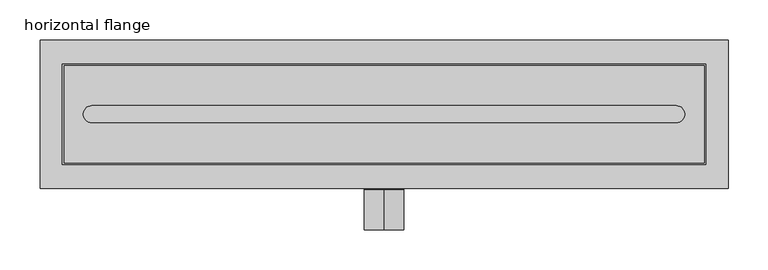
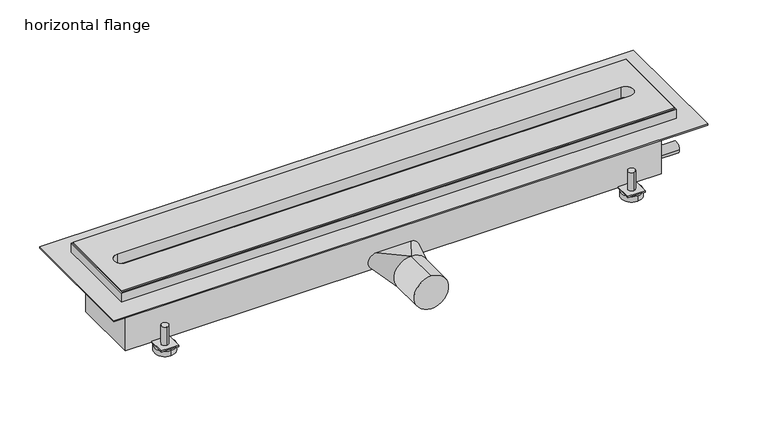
"""IFC4 building model written with IfcOpenShell, lengths in millimetres: sanitary terminal geometry, PF_ST_showerdrain X_Aco : horizontal flange."""

from ifc_helpers import new_model, si_unit, point, frame, frame_2d, origin, origin_with_axes, place, context, project, spatial, polyline, circle_curve, trimmed, segment, composite_curve, outline, extrude, faceted_brep, source, transform, mapped, element, save
from ifc_brep_helpers import plane_surface, cylinder_surface, spline_surface, advanced_brep


def horizontal_flange_dd45173d(model_context):
    return source(origin(), model_context, "Body", "SolidModel", [
        advanced_brep(
        [(-338.0, 67.0, -56.0), (-338.0, 57.0, -56.0), (-338.0, 77.0, -94.0), (-338.0, 47.0, -94.0), (-338.0, 67.0, -86.0), (-338.0, 57.0, -86.0), (-338.0, 77.0, -86.0), (-338.0, 47.0, -86.0)],
        [
            (0, 1, circle_curve(frame((-338.0, 62.0, -56.0), z_axis=(0.0, 0.0, 1.0), x_axis=(0.0, -1.0, 0.0)), 5.0)),
            (1, 0, circle_curve(frame((-338.0, 62.0, -56.0), z_axis=(0.0, 0.0, 1.0), x_axis=(0.0, -1.0, 0.0)), 5.0)),
            (2, 3, circle_curve(frame((-338.0, 62.0, -94.0), z_axis=(0.0, 0.0, -1.0), x_axis=(0.0, -1.0, 0.0)), 15.0)),
            (3, 2, circle_curve(frame((-338.0, 62.0, -94.0), z_axis=(0.0, 0.0, -1.0), x_axis=(0.0, -1.0, 0.0)), 15.0)),
            (0, 4),
            (4, 5, circle_curve(frame((-338.0, 62.0, -86.0), z_axis=(0.0, 0.0, 1.0), x_axis=(0.0, -1.0, 0.0)), 5.0)),
            (5, 1),
            (5, 4, circle_curve(frame((-338.0, 62.0, -86.0), z_axis=(0.0, 0.0, 1.0), x_axis=(0.0, -1.0, 0.0)), 5.0)),
            (6, 7, circle_curve(frame((-338.0, 62.0, -86.0), z_axis=(0.0, 0.0, 1.0), x_axis=(0.0, -1.0, 0.0)), 15.0)),
            (7, 6, circle_curve(frame((-338.0, 62.0, -86.0), z_axis=(0.0, 0.0, 1.0), x_axis=(0.0, -1.0, 0.0)), 15.0)),
            (6, 2),
            (3, 7),
        ],
        [
            plane_surface(frame((-338.0, 57.0, -56.0), z_axis=(0.0, 0.0, 1.0), x_axis=(1.0, 0.0, 0.0))),
            plane_surface(frame((-338.0, 57.0, -94.0), z_axis=(0.0, 0.0, -1.0), x_axis=(-1.0, 0.0, 0.0))),
            cylinder_surface(frame((-338.0, 62.0, -94.0), z_axis=(0.0, 0.0, 1.0), x_axis=(0.0, -1.0, 0.0)), 5.0),
            plane_surface(frame((-338.0, 47.0, -86.0), z_axis=(0.0, 0.0, 1.0), x_axis=(1.0, 0.0, 0.0))),
            cylinder_surface(frame((-338.0, 62.0, -94.0), z_axis=(0.0, 0.0, 1.0), x_axis=(0.0, -1.0, 0.0)), 15.0),
        ],
        [
            (0, [[1, 2]]),
            (1, [[3, 4]]),
            (2, [[-1, 5, 6, 7]]),
            (2, [[-2, -7, 8, -5]]),
            (3, [[9, 10], [-6, -8]]),
            (4, [[-9, 11, -4, 12]]),
            (4, [[-10, -12, -3, -11]]),
        ],
    ),
        advanced_brep(
        [(-338.0, -56.5, -56.0), (-338.0, -66.5, -56.0), (-338.0, -46.5, -94.0), (-338.0, -76.5, -94.0), (-338.0, -56.5, -86.0), (-338.0, -66.5, -86.0), (-338.0, -46.5, -86.0), (-338.0, -76.5, -86.0)],
        [
            (0, 1, circle_curve(frame((-338.0, -61.5, -56.0), z_axis=(0.0, 0.0, 1.0), x_axis=(0.0, -1.0, 0.0)), 5.0)),
            (1, 0, circle_curve(frame((-338.0, -61.5, -56.0), z_axis=(0.0, 0.0, 1.0), x_axis=(0.0, -1.0, 0.0)), 5.0)),
            (2, 3, circle_curve(frame((-338.0, -61.5, -94.0), z_axis=(0.0, 0.0, -1.0), x_axis=(0.0, -1.0, 0.0)), 15.0)),
            (3, 2, circle_curve(frame((-338.0, -61.5, -94.0), z_axis=(0.0, 0.0, -1.0), x_axis=(0.0, -1.0, 0.0)), 15.0)),
            (0, 4),
            (4, 5, circle_curve(frame((-338.0, -61.5, -86.0), z_axis=(0.0, 0.0, 1.0), x_axis=(0.0, -1.0, 0.0)), 5.0)),
            (5, 1),
            (5, 4, circle_curve(frame((-338.0, -61.5, -86.0), z_axis=(0.0, 0.0, 1.0), x_axis=(0.0, -1.0, 0.0)), 5.0)),
            (6, 7, circle_curve(frame((-338.0, -61.5, -86.0), z_axis=(0.0, 0.0, 1.0), x_axis=(0.0, -1.0, 0.0)), 15.0)),
            (7, 6, circle_curve(frame((-338.0, -61.5, -86.0), z_axis=(0.0, 0.0, 1.0), x_axis=(0.0, -1.0, 0.0)), 15.0)),
            (6, 2),
            (3, 7),
        ],
        [
            plane_surface(frame((-338.0, 57.0, -56.0), z_axis=(0.0, 0.0, 1.0), x_axis=(1.0, 0.0, 0.0))),
            plane_surface(frame((-338.0, 57.0, -94.0), z_axis=(0.0, 0.0, -1.0), x_axis=(-1.0, 0.0, 0.0))),
            cylinder_surface(frame((-338.0, -61.5, -94.0), z_axis=(0.0, 0.0, 1.0), x_axis=(0.0, -1.0, 0.0)), 5.0),
            plane_surface(frame((-338.0, 47.0, -86.0), z_axis=(0.0, 0.0, 1.0), x_axis=(1.0, 0.0, 0.0))),
            cylinder_surface(frame((-338.0, -61.5, -94.0), z_axis=(0.0, 0.0, 1.0), x_axis=(0.0, -1.0, 0.0)), 15.0),
        ],
        [
            (0, [[1, 2]]),
            (1, [[3, 4]]),
            (2, [[-1, 5, 6, 7]]),
            (2, [[-2, -7, 8, -5]]),
            (3, [[9, 10], [-6, -8]]),
            (4, [[-9, 11, -4, 12]]),
            (4, [[-10, -12, -3, -11]]),
        ],
    ),
        advanced_brep(
        [(338.0, 67.0, -56.0), (338.0, 57.0, -56.0), (338.0, 77.0, -94.0), (338.0, 47.0, -94.0), (338.0, 67.0, -86.0), (338.0, 57.0, -86.0), (338.0, 77.0, -86.0), (338.0, 47.0, -86.0)],
        [
            (0, 1, circle_curve(frame((338.0, 62.0, -56.0), z_axis=(0.0, 0.0, 1.0), x_axis=(0.0, -1.0, 0.0)), 5.0)),
            (1, 0, circle_curve(frame((338.0, 62.0, -56.0), z_axis=(0.0, 0.0, 1.0), x_axis=(0.0, -1.0, 0.0)), 5.0)),
            (2, 3, circle_curve(frame((338.0, 62.0, -94.0), z_axis=(0.0, 0.0, -1.0), x_axis=(0.0, -1.0, 0.0)), 15.0)),
            (3, 2, circle_curve(frame((338.0, 62.0, -94.0), z_axis=(0.0, 0.0, -1.0), x_axis=(0.0, -1.0, 0.0)), 15.0)),
            (0, 4),
            (4, 5, circle_curve(frame((338.0, 62.0, -86.0), z_axis=(0.0, 0.0, 1.0), x_axis=(0.0, -1.0, 0.0)), 5.0)),
            (5, 1),
            (5, 4, circle_curve(frame((338.0, 62.0, -86.0), z_axis=(0.0, 0.0, 1.0), x_axis=(0.0, -1.0, 0.0)), 5.0)),
            (6, 7, circle_curve(frame((338.0, 62.0, -86.0), z_axis=(0.0, 0.0, 1.0), x_axis=(0.0, -1.0, 0.0)), 15.0)),
            (7, 6, circle_curve(frame((338.0, 62.0, -86.0), z_axis=(0.0, 0.0, 1.0), x_axis=(0.0, -1.0, 0.0)), 15.0)),
            (6, 2),
            (3, 7),
        ],
        [
            plane_surface(frame((-338.0, 57.0, -56.0), z_axis=(0.0, 0.0, 1.0), x_axis=(1.0, 0.0, 0.0))),
            plane_surface(frame((-338.0, 57.0, -94.0), z_axis=(0.0, 0.0, -1.0), x_axis=(-1.0, 0.0, 0.0))),
            cylinder_surface(frame((338.0, 62.0, -94.0), z_axis=(0.0, 0.0, 1.0), x_axis=(0.0, -1.0, 0.0)), 5.0),
            plane_surface(frame((-338.0, 47.0, -86.0), z_axis=(0.0, 0.0, 1.0), x_axis=(1.0, 0.0, 0.0))),
            cylinder_surface(frame((338.0, 62.0, -94.0), z_axis=(0.0, 0.0, 1.0), x_axis=(0.0, -1.0, 0.0)), 15.0),
        ],
        [
            (0, [[1, 2]]),
            (1, [[3, 4]]),
            (2, [[-1, 5, 6, 7]]),
            (2, [[-2, -7, 8, -5]]),
            (3, [[9, 10], [-6, -8]]),
            (4, [[-9, 11, -4, 12]]),
            (4, [[-10, -12, -3, -11]]),
        ],
    ),
        advanced_brep(
        [(338.0, -56.5, -56.0), (338.0, -66.5, -56.0), (338.0, -46.5, -94.0), (338.0, -76.5, -94.0), (338.0, -56.5, -86.0), (338.0, -66.5, -86.0), (338.0, -46.5, -86.0), (338.0, -76.5, -86.0)],
        [
            (0, 1, circle_curve(frame((338.0, -61.5, -56.0), z_axis=(0.0, 0.0, 1.0), x_axis=(0.0, -1.0, 0.0)), 5.0)),
            (1, 0, circle_curve(frame((338.0, -61.5, -56.0), z_axis=(0.0, 0.0, 1.0), x_axis=(0.0, -1.0, 0.0)), 5.0)),
            (2, 3, circle_curve(frame((338.0, -61.5, -94.0), z_axis=(0.0, 0.0, -1.0), x_axis=(0.0, -1.0, 0.0)), 15.0)),
            (3, 2, circle_curve(frame((338.0, -61.5, -94.0), z_axis=(0.0, 0.0, -1.0), x_axis=(0.0, -1.0, 0.0)), 15.0)),
            (0, 4),
            (4, 5, circle_curve(frame((338.0, -61.5, -86.0), z_axis=(0.0, 0.0, 1.0), x_axis=(0.0, -1.0, 0.0)), 5.0)),
            (5, 1),
            (5, 4, circle_curve(frame((338.0, -61.5, -86.0), z_axis=(0.0, 0.0, 1.0), x_axis=(0.0, -1.0, 0.0)), 5.0)),
            (6, 7, circle_curve(frame((338.0, -61.5, -86.0), z_axis=(0.0, 0.0, 1.0), x_axis=(0.0, -1.0, 0.0)), 15.0)),
            (7, 6, circle_curve(frame((338.0, -61.5, -86.0), z_axis=(0.0, 0.0, 1.0), x_axis=(0.0, -1.0, 0.0)), 15.0)),
            (6, 2),
            (3, 7),
        ],
        [
            plane_surface(frame((-338.0, 57.0, -56.0), z_axis=(0.0, 0.0, 1.0), x_axis=(1.0, 0.0, 0.0))),
            plane_surface(frame((-338.0, 57.0, -94.0), z_axis=(0.0, 0.0, -1.0), x_axis=(-1.0, 0.0, 0.0))),
            cylinder_surface(frame((338.0, -61.5, -94.0), z_axis=(0.0, 0.0, 1.0), x_axis=(0.0, -1.0, 0.0)), 5.0),
            plane_surface(frame((-338.0, 47.0, -86.0), z_axis=(0.0, 0.0, 1.0), x_axis=(1.0, 0.0, 0.0))),
            cylinder_surface(frame((338.0, -61.5, -94.0), z_axis=(0.0, 0.0, 1.0), x_axis=(0.0, -1.0, 0.0)), 15.0),
        ],
        [
            (0, [[1, 2]]),
            (1, [[3, 4]]),
            (2, [[-1, 5, 6, 7]]),
            (2, [[-2, -7, 8, -5]]),
            (3, [[9, 10], [-6, -8]]),
            (4, [[-9, 11, -4, 12]]),
            (4, [[-10, -12, -3, -11]]),
        ],
    ),
        advanced_brep(
        [(388.0, 50.0, -86.0), (388.0, -49.0, -86.0), (350.5, -49.0, -86.0), (350.5, -74.0, -86.0), (325.5, -74.0, -86.0), (325.5, -49.0, -86.0), (-325.5, -49.0, -86.0), (-325.5, -74.0, -86.0), (-350.5, -74.0, -86.0), (-350.5, -49.0, -86.0), (-388.0, -49.0, -86.0), (-388.0, 50.0, -86.0), (-350.5, 50.0, -86.0), (-350.5, 74.0, -86.0), (-325.5, 74.0, -86.0), (-325.5, 50.0, -86.0), (325.5, 50.0, -86.0), (325.5, 74.0, -86.0), (350.5, 74.0, -86.0), (350.5, 50.0, -86.0), (388.0, 50.0, -8.0), (-388.0, 50.0, -8.0), (-388.0, -49.0, -8.0), (388.0, -49.0, -8.0), (350.5, 50.0, -84.0), (325.5, 50.0, -84.0), (-325.5, 50.0, -84.0), (-350.5, 50.0, -84.0), (-350.5, -49.0, -84.0), (-325.5, -49.0, -84.0), (325.5, -49.0, -84.0), (350.5, -49.0, -84.0), (388.0, -37.85, -68.0), (388.0, -22.15, -68.0), (388.0, 24.15, -32.0), (388.0, 39.85, -32.0), (421.0, -37.85, -68.0), (421.0, -22.15, -68.0), (421.0, 24.15, -32.0), (421.0, 39.85, -32.0), (-325.5, 74.0, -84.0), (-350.5, 74.0, -84.0), (350.5, 74.0, -84.0), (325.5, 74.0, -84.0), (350.5, -74.0, -84.0), (325.5, -74.0, -84.0), (-350.5, -74.0, -84.0), (-325.5, -74.0, -84.0)],
        [
            (0, 1),
            (1, 2),
            (2, 3),
            (3, 4),
            (4, 5),
            (5, 6),
            (6, 7),
            (7, 8),
            (8, 9),
            (9, 10),
            (10, 11),
            (11, 12),
            (12, 13),
            (13, 14),
            (14, 15),
            (15, 16),
            (16, 17),
            (17, 18),
            (18, 19),
            (19, 0),
            (20, 21),
            (21, 22),
            (22, 23),
            (23, 20),
            (20, 0),
            (19, 24),
            (24, 25),
            (25, 16),
            (15, 26),
            (26, 27),
            (27, 12),
            (11, 21),
            (10, 22),
            (9, 28),
            (28, 29),
            (29, 6),
            (5, 30),
            (30, 31),
            (31, 2),
            (1, 23),
            (32, 33, circle_curve(frame((388.0, -30.0, -68.0), z_axis=(-1.0, 0.0, 0.0), x_axis=(0.0, 1.0, 0.0)), 7.85)),
            (33, 32, circle_curve(frame((388.0, -30.0, -68.0), z_axis=(-1.0, 0.0, 0.0), x_axis=(0.0, 1.0, 0.0)), 7.85)),
            (34, 35, circle_curve(frame((388.0, 32.0, -32.0), z_axis=(-1.0, 0.0, 0.0), x_axis=(0.0, 1.0, 0.0)), 7.85)),
            (35, 34, circle_curve(frame((388.0, 32.0, -32.0), z_axis=(-1.0, 0.0, 0.0), x_axis=(0.0, 1.0, 0.0)), 7.85)),
            (36, 37, circle_curve(frame((421.0, -30.0, -68.0), z_axis=(1.0, 0.0, 0.0), x_axis=(0.0, 1.0, 0.0)), 7.85)),
            (37, 36, circle_curve(frame((421.0, -30.0, -68.0), z_axis=(1.0, 0.0, 0.0), x_axis=(0.0, 1.0, 0.0)), 7.85)),
            (37, 33),
            (32, 36),
            (38, 39, circle_curve(frame((421.0, 32.0, -32.0), z_axis=(1.0, 0.0, 0.0), x_axis=(0.0, 1.0, 0.0)), 7.85)),
            (39, 38, circle_curve(frame((421.0, 32.0, -32.0), z_axis=(1.0, 0.0, 0.0), x_axis=(0.0, 1.0, 0.0)), 7.85)),
            (39, 35),
            (34, 38),
            (40, 41),
            (41, 27),
            (26, 40),
            (42, 43),
            (43, 25),
            (24, 42),
            (44, 31),
            (30, 45),
            (45, 44),
            (46, 47),
            (47, 29),
            (28, 46),
            (40, 14),
            (13, 41),
            (42, 18),
            (17, 43),
            (44, 3),
            (4, 45),
            (46, 8),
            (7, 47),
        ],
        [
            plane_surface(frame((-388.0, 50.0, -86.0), z_axis=(0.0, 0.0, -1.0), x_axis=(1.0, 0.0, 0.0))),
            plane_surface(frame((-388.0, 50.0, -8.0), z_axis=(0.0, 0.0, 1.0), x_axis=(-1.0, 0.0, 0.0))),
            plane_surface(frame((388.0, 50.0, -8.0), z_axis=(0.0, 1.0, 0.0), x_axis=(0.0, 0.0, -1.0))),
            plane_surface(frame((-388.0, 50.0, -8.0), z_axis=(-1.0, 0.0, 0.0), x_axis=(0.0, 0.0, -1.0))),
            plane_surface(frame((-388.0, -49.0, -8.0), z_axis=(0.0, -1.0, 0.0), x_axis=(0.0, 0.0, -1.0))),
            plane_surface(frame((388.0, -49.0, -8.0), z_axis=(1.0, 0.0, 0.0), x_axis=(0.0, 0.0, -1.0))),
            plane_surface(frame((421.0, -30.0, -68.0), z_axis=(1.0, 0.0, 0.0), x_axis=(0.0, 0.0, 1.0))),
            cylinder_surface(frame((0.0, -30.0, -68.0), z_axis=(-1.0, 0.0, 0.0), x_axis=(0.0, 1.0, 0.0)), 7.85),
            plane_surface(frame((421.0, 32.0, -32.0), z_axis=(1.0, 0.0, 0.0), x_axis=(0.0, 0.0, 1.0))),
            cylinder_surface(frame((0.0, 32.0, -32.0), z_axis=(-1.0, 0.0, 0.0), x_axis=(0.0, 1.0, 0.0)), 7.85),
            plane_surface(frame((-350.5, 74.0, -84.0), z_axis=(0.0, 0.0, 1.0), x_axis=(-1.0, 0.0, 0.0))),
            plane_surface(frame((-325.5, 74.0, -84.0), z_axis=(0.0, 1.0, 0.0), x_axis=(0.0, 0.0, -1.0))),
            plane_surface(frame((-350.5, 74.0, -84.0), z_axis=(-1.0, 0.0, 0.0), x_axis=(0.0, 0.0, -1.0))),
            plane_surface(frame((-325.5, 50.0, -84.0), z_axis=(1.0, 0.0, 0.0), x_axis=(0.0, 0.0, -1.0))),
            plane_surface(frame((350.5, 74.0, -84.0), z_axis=(0.0, 1.0, 0.0), x_axis=(0.0, 0.0, -1.0))),
            plane_surface(frame((325.5, 74.0, -84.0), z_axis=(-1.0, 0.0, 0.0), x_axis=(0.0, 0.0, -1.0))),
            plane_surface(frame((350.5, 50.0, -84.0), z_axis=(1.0, 0.0, 0.0), x_axis=(0.0, 0.0, -1.0))),
            plane_surface(frame((350.5, -74.0, -84.0), z_axis=(1.0, 0.0, 0.0), x_axis=(0.0, 0.0, -1.0))),
            plane_surface(frame((325.5, -49.0, -84.0), z_axis=(-1.0, 0.0, 0.0), x_axis=(0.0, 0.0, -1.0))),
            plane_surface(frame((325.5, -74.0, -84.0), z_axis=(0.0, -1.0, 0.0), x_axis=(0.0, 0.0, -1.0))),
            plane_surface(frame((-350.5, -74.0, -84.0), z_axis=(0.0, -1.0, 0.0), x_axis=(0.0, 0.0, -1.0))),
            plane_surface(frame((-325.5, -74.0, -84.0), z_axis=(1.0, 0.0, 0.0), x_axis=(0.0, 0.0, -1.0))),
            plane_surface(frame((-350.5, -49.0, -84.0), z_axis=(-1.0, 0.0, 0.0), x_axis=(0.0, 0.0, -1.0))),
        ],
        [
            (0, [[1, 2, 3, 4, 5, 6, 7, 8, 9, 10, 11, 12, 13, 14, 15, 16, 17, 18, 19, 20]]),
            (1, [[21, 22, 23, 24]]),
            (2, [[-21, 25, -20, 26, 27, 28, -16, 29, 30, 31, -12, 32]]),
            (3, [[-11, 33, -22, -32]]),
            (4, [[-23, -33, -10, 34, 35, 36, -6, 37, 38, 39, -2, 40]]),
            (5, [[-1, -25, -24, -40], [41, 42], [43, 44]]),
            (6, [[45, 46]]),
            (7, [[-46, 47, -41, 48]]),
            (7, [[-45, -48, -42, -47]]),
            (8, [[49, 50]]),
            (9, [[-50, 51, -43, 52]]),
            (9, [[-49, -52, -44, -51]]),
            (10, [[53, 54, -30, 55]]),
            (10, [[56, 57, -27, 58]]),
            (10, [[59, -38, 60, 61]]),
            (10, [[62, 63, -35, 64]]),
            (11, [[-53, 65, -14, 66]]),
            (12, [[-54, -66, -13, -31]]),
            (13, [[-55, -29, -15, -65]]),
            (14, [[-56, 67, -18, 68]]),
            (15, [[-57, -68, -17, -28]]),
            (16, [[-58, -26, -19, -67]]),
            (17, [[-59, 69, -3, -39]]),
            (18, [[-60, -37, -5, 70]]),
            (19, [[-61, -70, -4, -69]]),
            (20, [[-62, 71, -8, 72]]),
            (21, [[-63, -72, -7, -36]]),
            (22, [[-64, -34, -9, -71]]),
        ],
    ),
        extrude(outline(polyline([(400.0, 61.0), (400.0, -61.0), (-400.0, -61.0), (-400.0, 61.0), (400.0, 61.0)]), holes=[composite_curve([segment(polyline([(365.0860312, 10.6770786), (-365.0900069, 10.6770786)]), True, "CONTINUOUS"), segment(trimmed(circle_curve(frame_2d((-365.0900069, 0.0)), 10.6770786), [point((-365.0900069, 10.6770786))], [point((-365.0900069, -10.6770786))], True, "CARTESIAN"), True, "CONTINUOUS"), segment(polyline([(-365.0900069, -10.6770786), (365.0860312, -10.6770786)]), True, "CONTINUOUS"), segment(trimmed(circle_curve(frame_2d((365.0860312, 0.0)), 10.6770786), [point((365.0860312, -10.6770786))], [point((365.0860312, 10.6770786))], True, "CARTESIAN"), True, "CONTINUOUS")], self_intersect=False)]), origin_with_axes(), (0.0, 0.0, 1.0), 18.0),
        advanced_brep(
        [(0.0, -144.5, -99.0), (0.0, -144.5, -49.0), (0.0, -94.5, -99.0), (13.0, -94.5, -95.3541565), (13.0005627, -94.5, -52.6461861), (0.0, -94.5, -49.0), (-13.0, -94.5, -52.6458435), (-13.0, -94.5, -95.3541565), (25.0, -50.0, -86.0), (-25.0, -50.0, -86.0), (-25.0, -50.0, -62.0), (25.0, -50.0, -62.0)],
        [
            (0, 1, circle_curve(frame((0.0, -144.5, -74.0), z_axis=(0.0, -1.0, 0.0), x_axis=(0.0, 0.0, 1.0)), 25.0)),
            (1, 0, circle_curve(frame((0.0, -144.5, -74.0), z_axis=(0.0, -1.0, 0.0), x_axis=(0.0, 0.0, 1.0)), 25.0)),
            (0, 2),
            (2, 3, circle_curve(frame((0.0, -94.5, -74.0), z_axis=(0.0, -1.0, 0.0), x_axis=(0.0, 0.0, 1.0)), 25.0)),
            (3, 4, circle_curve(frame((0.0, -94.5, -74.0), z_axis=(0.0, -1.0, 0.0), x_axis=(0.0, 0.0, 1.0)), 25.0)),
            (4, 5, circle_curve(frame((0.0, -94.5, -74.0), z_axis=(0.0, -1.0, 0.0), x_axis=(0.0, 0.0, 1.0)), 25.0)),
            (5, 1),
            (5, 6, circle_curve(frame((0.0, -94.5, -74.0), z_axis=(0.0, -1.0, 0.0), x_axis=(0.0, 0.0, 1.0)), 25.0)),
            (6, 7, circle_curve(frame((0.0, -94.5, -74.0), z_axis=(0.0, -1.0, 0.0), x_axis=(0.0, 0.0, 1.0)), 25.0)),
            (7, 2, circle_curve(frame((0.0, -94.5, -74.0), z_axis=(0.0, -1.0, 0.0), x_axis=(0.0, 0.0, 1.0)), 25.0)),
            (8, 9),
            (9, 10, circle_curve(frame((-25.0, -50.0, -74.0), z_axis=(0.0, 1.0, 0.0), x_axis=(0.0, 0.0, 1.0)), 12.0)),
            (10, 11),
            (11, 8, circle_curve(frame((25.0, -50.0, -74.0), z_axis=(0.0, 1.0, 0.0), x_axis=(0.0, 0.0, 1.0)), 12.0)),
            (8, 2),
            (2, 9),
            (5, 10),
            (5, 11),
        ],
        [
            plane_surface(frame((0.0, -144.5, -74.0), z_axis=(0.0, -1.0, 0.0), x_axis=(1.0, 0.0, 0.0))),
            cylinder_surface(frame((0.0, -144.5, -74.0), z_axis=(0.0, -1.0, 0.0), x_axis=(0.0, 0.0, 1.0)), 25.0),
            plane_surface(frame((0.0, -50.0, -74.0), z_axis=(0.0, 1.0, 0.0), x_axis=(-1.0, 0.0, 0.0))),
            plane_surface(frame((0.0, -94.5, -99.0), z_axis=(0.0, 0.2804141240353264, -0.9598791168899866), x_axis=(-1.0, 0.0, 0.0))),
            spline_surface(2, 1, [[(0.0, -94.5, -99.0), (-25.0, -50.0, -86.0)], [(-25.0, -94.5, -99.0), (-37.0, -50.0, -86.0)], [(-25.0, -94.5, -74.0), (-37.0, -50.0, -74.0)], [(-25.0, -94.5, -49.0), (-37.0, -50.0, -62.0)], [(0.0, -94.5, -49.0), (-25.0, -50.0, -62.0)]], [3, 2, 3], [2, 2], [0.0, 1.0, 2.0], [0.0, 1.0], weights=[[1.0, 1.0], [0.7071067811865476, 0.7071067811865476], [1.0, 1.0], [0.7071067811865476, 0.7071067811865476], [1.0, 1.0]]),
            plane_surface(frame((0.0, -94.5, -49.0), z_axis=(0.0, 0.2804141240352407, 0.9598791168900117), x_axis=(1.0, 0.0, 0.0))),
            spline_surface(2, 1, [[(0.0, -94.5, -49.0), (25.0, -50.0, -62.0)], [(25.0, -94.5, -49.0), (37.0, -50.0, -62.0)], [(25.0, -94.5, -74.0), (37.0, -50.0, -74.0)], [(25.0, -94.5, -99.0), (37.0, -50.0, -86.0)], [(0.0, -94.5, -99.0), (25.0, -50.0, -86.0)]], [3, 2, 3], [2, 2], [0.0, 1.0, 2.0], [0.0, 1.0], weights=[[1.0, 1.0], [0.7071067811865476, 0.7071067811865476], [1.0, 1.0], [0.7071067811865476, 0.7071067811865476], [1.0, 1.0]]),
        ],
        [
            (0, [[1, 2]]),
            (1, [[-1, 3, 4, 5, 6, 7]]),
            (1, [[-2, -7, 8, 9, 10, -3]]),
            (2, [[11, 12, 13, 14]]),
            (3, [[-11, 15, 16]]),
            (4, [[-12, -16, -10, -9, -8, 17]]),
            (5, [[-13, -17, 18]]),
            (6, [[-14, -18, -6, -5, -4, -15]]),
        ],
    ),
        extrude(outline(polyline([(430.0, 93.0), (430.0, -93.0), (-430.0, -93.0), (-430.0, 93.0), (430.0, 93.0)])), origin_with_axes(), (0.0, 0.0, 1.0), 2.0),
        faceted_brep([(402.0, 63.0, 16.0), (-402.0, 63.0, 16.0), (-402.0, -63.0, 16.0), (402.0, -63.0, 16.0), (-400.0, 61.0, 16.0), (400.0, 61.0, 16.0), (400.0, -61.0, 16.0), (-400.0, -61.0, 16.0), (402.0, 63.0, -8.0), (402.0, -63.0, -8.0), (-402.0, -63.0, -8.0), (-402.0, 63.0, -8.0), (400.0, 61.0, -6.0), (-400.0, 61.0, -6.0), (-400.0, -61.0, -6.0), (400.0, -61.0, -6.0)], [[[0, 1, 2, 3], [4, 5, 6, 7]], [[8, 9, 10, 11]], [[1, 0, 8, 11]], [[2, 1, 11, 10]], [[3, 2, 10, 9]], [[0, 3, 9, 8]], [[12, 13, 14, 15]], [[13, 12, 5, 4]], [[14, 13, 4, 7]], [[15, 14, 7, 6]], [[12, 15, 6, 5]]]),
    ])


if __name__ == "__main__":
    model = new_model("IFC4")
    model_context = context("Model", 3, world=origin())
    ifc_project = project(units=[si_unit("LENGTHUNIT", "METRE", prefix="MILLI")], contexts=[model_context])
    site = spatial("IfcSite", under=ifc_project)
    building = spatial("IfcBuilding", under=site)
    placement = place(None, origin())
    horizontal_flange_shape = horizontal_flange_dd45173d(model_context)
    element("IfcSanitaryTerminal", 1, ObjectType="PF_ST_showerdrain X_Aco : horizontal flange", at=placement, inside=building, context=model_context, shape_type="MappedRepresentation", body=[
        mapped(horizontal_flange_shape, transform((0.0, 0.0, 0.0), x_axis=(1.0, 0.0, 0.0), y_axis=(0.0, 1.0, 0.0), z_axis=(0.0, 0.0, 1.0))),
    ])
    save(model, "model.ifc")
